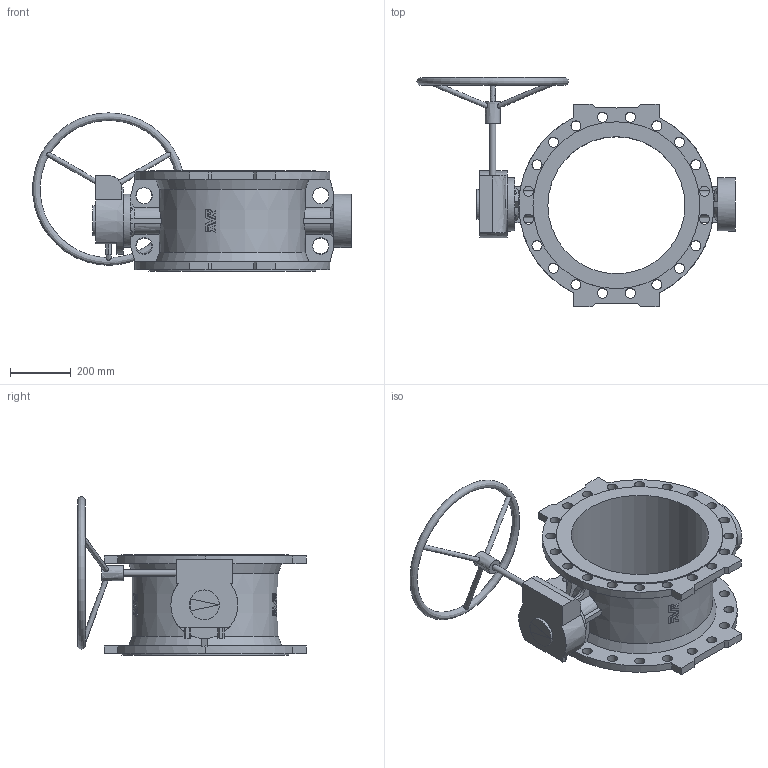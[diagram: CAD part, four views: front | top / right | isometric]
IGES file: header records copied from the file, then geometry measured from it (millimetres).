
Start section: SolidWorks IGES file using analytic representation for surfaces
Global section: file name: \\avksan2\techshare\PBM outline export from Enovia\O_756_1_DN450_1XX00_AA0_igs.igs; native system: SolidWorks 2012; preprocessor: SolidWorks 2012; author: pbm; date: 160304.124708; units: millimetre
Bounding box: 1045.27 x 750.99 x 519.46 mm (x, y, z)
Surface area: 2178119.4 mm2 (no closed solid volume)
Topology: 0 solids, 0 shells, 359 faces, 2936 edges, 2826 vertices
Faces by surface type: bspline 250, revolution 109
